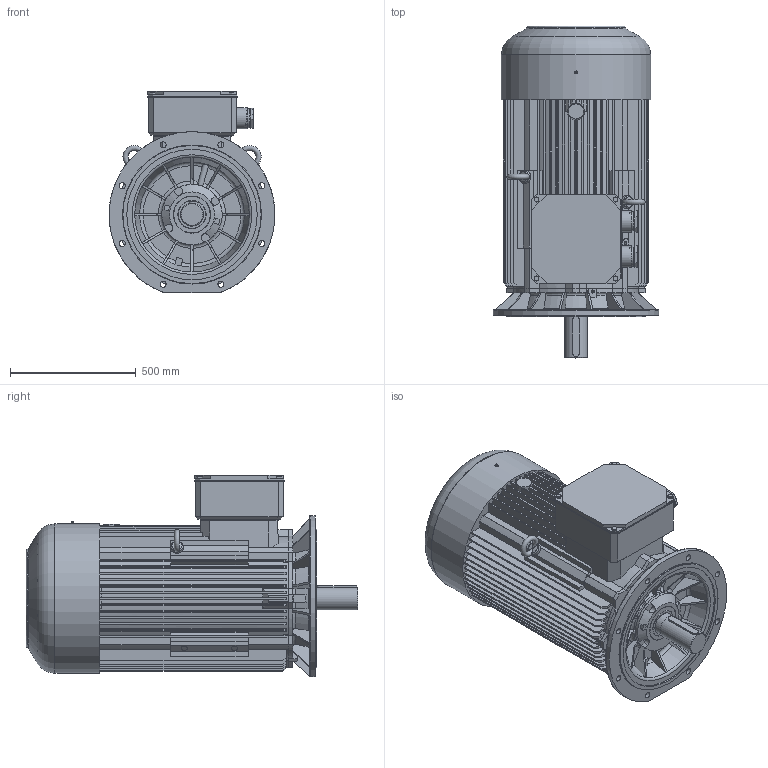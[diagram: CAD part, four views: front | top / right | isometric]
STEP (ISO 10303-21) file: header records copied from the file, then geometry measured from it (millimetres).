
FILE_DESCRIPTION( ( 'Unknown' ), '1' );
FILE_NAME( 'C:/Documents and Settings/kwalica/Pulpit/2,3 SIE paczka/3SIE 315/STP/2SIEK315M6D.stp', 'Unknown', ( 'Unknown' ), ( 'Unknown' ), 'XStep 1.0', 'Unknown', ' ' );
FILE_SCHEMA( ( 'CONFIG_CONTROL_DESIGN' ) );
Length unit declared in the file: millimetre
Products named in the file (4): 1; 2; 3; 4
Bounding box: 660 x 1320 x 799.5 mm (x, y, z)
Volume: 281087887 mm3; surface area: 6786380.4 mm2
Topology: 4 solids, 20 shells, 1291 faces, 3524 edges, 2324 vertices
Faces by surface type: plane 790, cylinder 262, cone 118, torus 105, bspline 16
Full cylindrical faces by diameter (mm): 1.6 x2, 5 x4, 10.106 x4, 13.835 x1, 16.63 x4, 24 x12, 50 x2, 55 x2, 57 x4, 65 x4, 70 x2, 71 x6, 72 x2, 72.752 x2, 76 x2, 85 x2, 89.5 x1, 89.999 x1, 90 x1, 99.4 x1, 100 x1, 111.399 x1, 112 x1, 119.4 x1, 119.999 x1, 131.399 x1, 132 x1, 139.4 x1, 139.999 x1, 147 x1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
Entity records: 49610 total; most frequent: CARTESIAN_POINT 17788, ORIENTED_EDGE 6650, DIRECTION 6358, EDGE_CURVE 3325, VERTEX_POINT 2255, AXIS2_PLACEMENT_3D 2219, LINE 1920, VECTOR 1920
